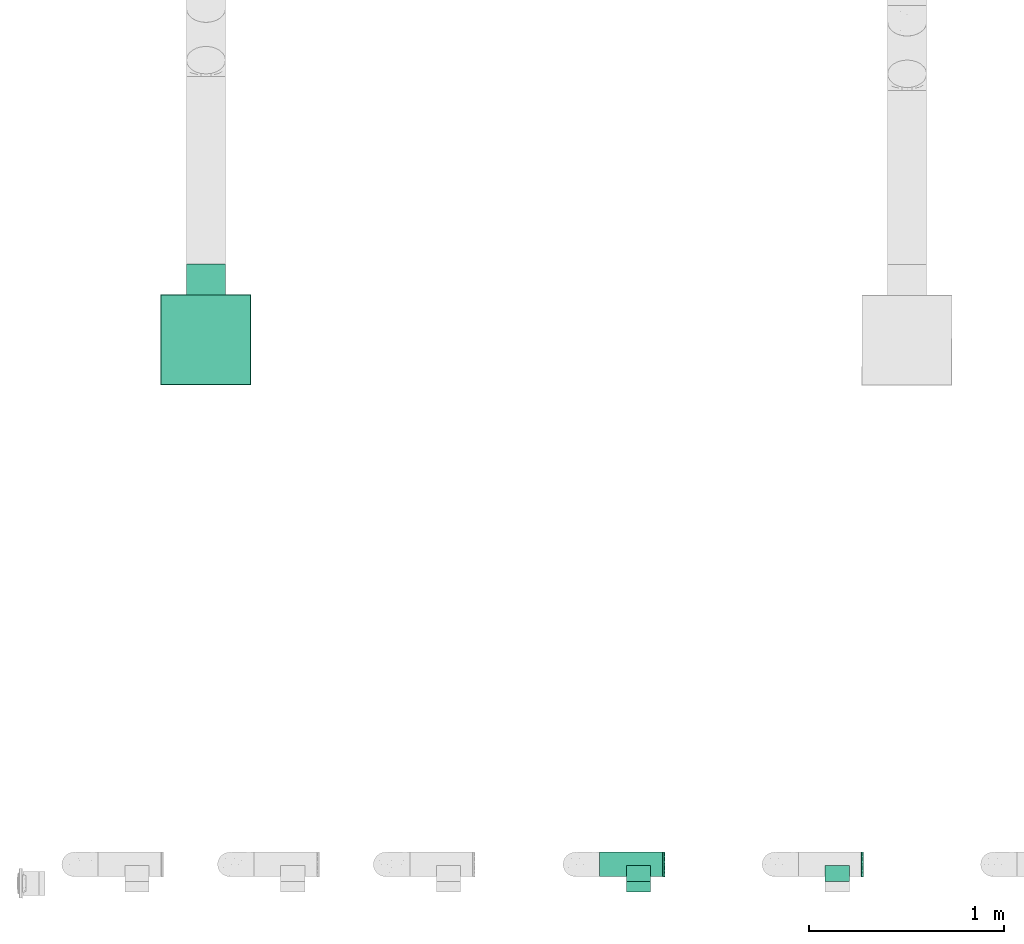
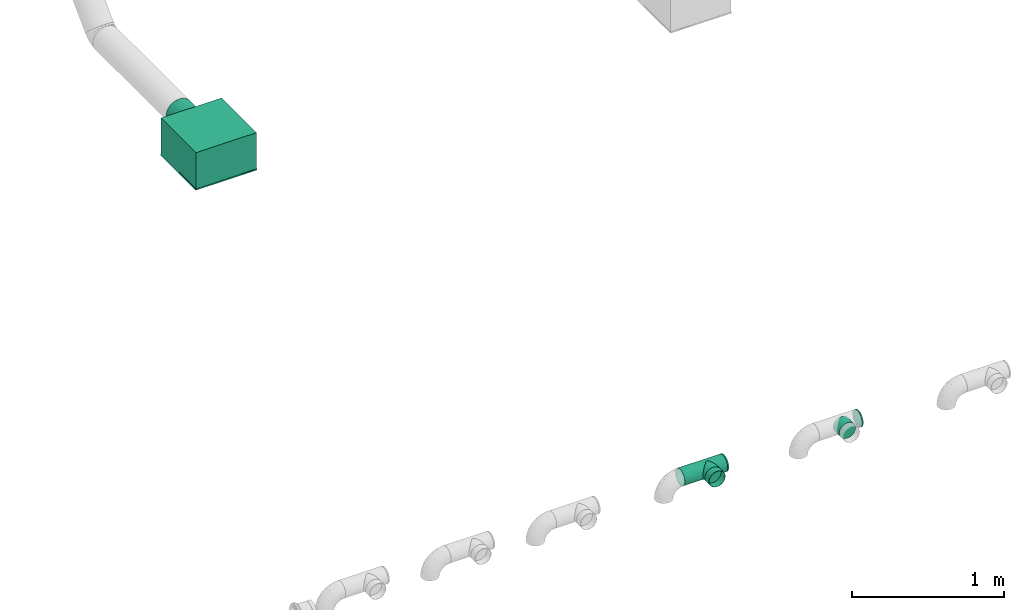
# One storey, part 6 of 63: 4 flow fittings, 2 flow segments, 1 flow terminal.
"""IFC2X3 building model written with IfcOpenShell, lengths in millimetres."""

from ifc_helpers import new_model, entity, si_unit, converted_unit, derived_unit, direction, frame, origin_with_axes, origin_2d_with_axis, place, context, subcontext, project, spatial, hollow_circle, extrude, open_shell, surface_model, source, transform, mapped, type_object, element, save


model = new_model("IFC2X3")

# Units and contexts
model_context = context("Model", 3, precision=0.01, world=frame((0.0, 4.29681676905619e-09, 0.0)), true_north=direction((4.01073788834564e-13, 1.0)))
plan_context = context("Plan", 3, precision=0.01, world=frame((0.0, 4.29681676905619e-09, 0.0)), true_north=direction((4.01073788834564e-13, 1.0)))
body_context = subcontext(model_context, "Body", "Model", "MODEL_VIEW")
ifc_project = project(units=[converted_unit("PLANEANGLEUNIT", "DEGREE", entity("IfcPositiveLengthMeasure", 0.0174532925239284), si_unit("PLANEANGLEUNIT", "RADIAN"), dimensions=[0, 0, 0, 0, 0, 0, 0]), si_unit("AREAUNIT", "SQUARE_METRE"), si_unit("LENGTHUNIT", "METRE", prefix="MILLI"), si_unit("MASSUNIT", "GRAM", prefix="KILO"), si_unit("POWERUNIT", "WATT"), si_unit("PRESSUREUNIT", "PASCAL"), si_unit("FORCEUNIT", "NEWTON", prefix="KILO"), si_unit("ELECTRICVOLTAGEUNIT", "VOLT"), si_unit("ELECTRICCURRENTUNIT", "AMPERE"), si_unit("THERMODYNAMICTEMPERATUREUNIT", "DEGREE_CELSIUS"), si_unit("TIMEUNIT", "SECOND"), si_unit("VOLUMEUNIT", "CUBIC_METRE"), derived_unit("LINEARVELOCITYUNIT", [(si_unit("LENGTHUNIT", "METRE"), 1), (si_unit("TIMEUNIT", "SECOND"), -1)]), derived_unit("VOLUMETRICFLOWRATEUNIT", [(si_unit("VOLUMEUNIT", "CUBIC_METRE"), 1), (si_unit("TIMEUNIT", "SECOND"), -1)]), derived_unit("THERMALTRANSMITTANCEUNIT", [(si_unit("POWERUNIT", "WATT"), 1), (si_unit("THERMODYNAMICTEMPERATUREUNIT", "KELVIN"), -1), (si_unit("AREAUNIT", "SQUARE_METRE"), -1)]), derived_unit("SOUNDPRESSUREUNIT", [(si_unit("PRESSUREUNIT", "PASCAL"), 1)])], contexts=[model_context, plan_context])

# Site, building, storey
site_placement = place(None, frame((0.0, -4.29681676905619e-09, 0.0), z_axis=(0.0, 0.0, 1.0), x_axis=(1.0, 0.0, 0.0)))
site = spatial("IfcSite", under=ifc_project, at=site_placement, CompositionType="ELEMENT")
building_placement = place(site_placement, frame((0.0, 4.29681676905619e-09, 0.0), z_axis=(0.0, 0.0, 1.0), x_axis=(1.0, 0.0, 0.0)))
building = spatial("IfcBuilding", under=site, at=building_placement, Name="mc-building", CompositionType="ELEMENT")
storey_placement = place(building_placement, frame((0.0, 0.0, 210900.0), z_axis=(0.0, 0.0, 1.0), x_axis=(1.0, 0.0, 0.0)))
storey = spatial("IfcBuildingStorey", under=building, at=storey_placement, Name="Nivå F", CompositionType="ELEMENT", Elevation=210900.0)

# Flow fittings
duct_fitting_type_1 = type_object("IfcDuctFittingType", Name="magicirc_tapoutlet_001", PredefinedType="CONNECTOR")
shared_shape_1 = source(origin_with_axes(), body_context, "Body", "SurfaceModel", [
    surface_model("IfcShellBasedSurfaceModel", [(25.0, 0.0, -62.5), (25.0, -31.25, -54.12659), (25.0, -16.17619, -60.37037), (25.0, 44.19417, -44.19417), (25.0, 62.5, 0.0), (25.0, 31.25, -54.12659), (25.0, 54.12659, -31.25), (25.0, -62.5, 0.0), (25.0, -60.37037, -16.17619), (25.0, -60.37037, 16.17619), (25.0, 16.17619, -60.37037), (25.0, -44.19417, -44.19417), (25.0, -54.12659, -31.25), (25.0, 60.37037, -16.17619), (25.0, 60.37037, 16.17619), (25.0, 54.12659, 31.25), (25.0, 44.19417, 44.19417), (25.0, 31.25, 54.12659), (25.0, 0.0, 62.5), (25.0, 16.17619, 60.37037), (25.0, -44.19417, 44.19417), (25.0, -54.12659, 31.25), (25.0, -16.17619, 60.37037), (25.0, -31.25, 54.12659), (0.0, 0.0, 62.5), (0.0, 16.17619, 60.37037), (0.0, 31.25, 54.12659), (0.0, 44.19417, 44.19417), (0.0, 54.12659, 31.25), (0.0, 60.37037, 16.17619), (0.0, 62.5, 0.0), (0.0, 60.37037, -16.17619), (0.0, 54.12659, -31.25), (0.0, 44.19417, -44.19417), (0.0, 31.25, -54.12659), (0.0, 16.17619, -60.37037), (0.0, 0.0, -62.5), (0.0, -16.17619, -60.37037), (0.0, -31.25, -54.12659), (0.0, -44.19417, -44.19417), (0.0, -54.12659, -31.25), (0.0, -60.37037, -16.17619), (0.0, -62.5, 0.0), (0.0, -60.37037, 16.17619), (0.0, -54.12659, 31.25), (0.0, -44.19417, 44.19417), (0.0, -31.25, 54.12659), (0.0, -16.17619, 60.37037), (-56.404, -44.19417, -44.19417), (-56.404, -54.12659, -31.25), (-56.404, -62.5, 0.0), (-56.404, -31.25, -54.12659), (-56.404, 0.0, -62.5), (-56.404, 62.5, 0.0), (-56.404, 60.37037, -16.17619), (-56.404, 60.37037, 16.17619), (-56.404, -16.17619, -60.37037), (-56.404, 16.17619, -60.37037), (-56.404, 31.25, -54.12659), (-56.404, 44.19417, -44.19417), (-56.404, 54.12659, -31.25), (-56.404, -60.37037, 16.17619), (-56.404, -60.37037, -16.17619), (-56.404, 54.12659, 31.25), (-56.404, 44.19417, 44.19417), (-56.404, 16.17619, 60.37037), (-56.404, 31.25, 54.12659), (-56.404, -16.17619, 60.37037), (-56.404, -54.12659, 31.25), (-56.404, -44.19417, 44.19417), (-56.404, -31.25, 54.12659), (-56.404, 0.0, 62.5)], [open_shell([[[0, 1, 2]], [[3, 4, 5]], [[3, 6, 4]], [[7, 8, 9]], [[10, 4, 0]], [[5, 4, 10]], [[11, 0, 9]], [[0, 11, 1]], [[1, 2, 0]], [[12, 9, 8]], [[9, 12, 11]], [[8, 9, 7]], [[4, 6, 13]], [[14, 15, 0]], [[0, 15, 16]], [[0, 17, 18]], [[16, 17, 0]], [[17, 19, 18]], [[0, 20, 21]], [[21, 9, 0]], [[22, 23, 0]], [[23, 20, 0]], [[22, 0, 18]], [[4, 14, 0]], [[24, 18, 19]], [[25, 19, 17]], [[24, 19, 25]], [[26, 16, 27]], [[26, 25, 17]], [[16, 26, 17]], [[28, 15, 14]], [[29, 14, 4]], [[27, 15, 28]], [[29, 28, 14]], [[30, 29, 4]], [[15, 27, 16]], [[30, 4, 13]], [[31, 13, 6]], [[30, 13, 31]], [[32, 3, 33]], [[32, 31, 6]], [[3, 32, 6]], [[34, 5, 10]], [[35, 10, 0]], [[33, 5, 34]], [[35, 34, 10]], [[36, 35, 0]], [[5, 33, 3]], [[36, 0, 2]], [[37, 2, 1]], [[36, 2, 37]], [[38, 11, 39]], [[38, 37, 1]], [[11, 38, 1]], [[40, 12, 8]], [[41, 8, 7]], [[39, 12, 40]], [[41, 40, 8]], [[42, 41, 7]], [[12, 39, 11]], [[42, 7, 9]], [[43, 9, 21]], [[42, 9, 43]], [[44, 20, 45]], [[44, 43, 21]], [[20, 44, 21]], [[46, 23, 22]], [[47, 22, 18]], [[45, 23, 46]], [[47, 46, 22]], [[24, 47, 18]], [[23, 45, 20]], [[15, 0, 14]], [[15, 16, 0]], [[0, 16, 17]], [[18, 17, 19]], [[9, 0, 21]], [[0, 23, 20]], [[18, 22, 0]], [[14, 0, 4]], [[48, 49, 50]], [[48, 50, 51]], [[36, 37, 52]], [[52, 35, 36]], [[53, 54, 55]], [[52, 56, 57]], [[57, 55, 58]], [[59, 55, 60]], [[58, 55, 59]], [[57, 50, 61]], [[56, 51, 50]], [[62, 50, 49]], [[50, 57, 56]], [[54, 60, 55]], [[55, 57, 63]], [[64, 63, 57]], [[57, 65, 66]], [[57, 66, 64]], [[57, 67, 65]], [[68, 69, 57]], [[57, 61, 68]], [[69, 70, 57]], [[57, 70, 67]], [[67, 71, 65]], [[71, 24, 25]], [[66, 25, 26]], [[71, 25, 65]], [[65, 25, 66]], [[26, 64, 66]], [[26, 27, 64]], [[55, 28, 29]], [[53, 29, 30]], [[27, 63, 64]], [[27, 28, 63]], [[63, 28, 55]], [[29, 53, 55]], [[54, 30, 31]], [[60, 31, 32]], [[53, 30, 54]], [[54, 31, 60]], [[32, 59, 60]], [[32, 33, 59]], [[57, 34, 35]], [[33, 58, 59]], [[33, 34, 58]], [[58, 34, 57]], [[35, 52, 57]], [[37, 38, 51]], [[52, 37, 56]], [[48, 51, 38]], [[37, 51, 56]], [[38, 39, 48]], [[62, 40, 41]], [[50, 41, 42]], [[39, 49, 48]], [[39, 40, 49]], [[49, 40, 62]], [[41, 50, 62]], [[43, 44, 68]], [[42, 43, 61]], [[61, 50, 42]], [[68, 61, 43]], [[44, 69, 68]], [[44, 45, 69]], [[67, 46, 47]], [[71, 47, 24]], [[45, 70, 69]], [[45, 46, 70]], [[70, 46, 67]], [[47, 71, 67]], [[57, 63, 55]], [[57, 64, 63]], [[66, 57, 65]], [[66, 64, 57]], [[65, 57, 67]], [[68, 57, 61]]])]),
])
for number, where, z_axis, x_axis, name in (
    (1, (526541.94464, 440830.46265, 2163.0), (0.0, 0.0, -1.0), (0.0, -1.0, 0.0), "magicirc_tapoutlet_001"),
    (2, (525521.94464, 440830.46265, 2163.0), (0.0, 0.0, -1.0), (0.0, -1.0, 0.0), "magicirc_tapoutlet_001"),
):
    element("IfcFlowFitting", number, at=place(storey_placement, frame(where, z_axis=z_axis, x_axis=x_axis)), inside=storey, type_object=duct_fitting_type_1, Name=name, context=body_context, shape_type="MappedRepresentation", body=[
        mapped(shared_shape_1, transform((0.0, 0.0, 0.0), scale=1.0)),
    ])
duct_fitting_type_2 = type_object("IfcDuctFittingType", Name="magicirc_plug_001", PredefinedType="OBSTRUCTION")
shared_shape_2 = source(origin_with_axes(), body_context, "Body", "SurfaceModel", [
    surface_model("IfcShellBasedSurfaceModel", [(0.0, 0.0, -62.5), (0.0, -16.17619, -60.37037), (0.0, 16.17619, -60.37037), (0.0, 31.25, -54.12659), (0.0, 54.12659, -31.25), (0.0, 44.19417, -44.19417), (0.0, 60.37037, -16.17619), (0.0, -31.25, -54.12659), (0.0, -44.19417, -44.19417), (0.0, -62.5, 0.0), (0.0, -54.12659, -31.25), (0.0, -60.37037, -16.17619), (0.0, 62.5, 0.0), (0.0, 60.37037, 16.17619), (0.0, 44.19417, 44.19417), (0.0, 54.12659, 31.25), (0.0, 31.25, 54.12659), (0.0, -54.12659, 31.25), (0.0, -16.17619, 60.37037), (0.0, 16.17619, 60.37037), (0.0, -44.19417, 44.19417), (0.0, -31.25, 54.12659), (0.0, -60.37037, 16.17619), (0.0, 0.0, 62.5), (10.0, 16.17619, -60.37037), (10.0, -16.17619, -60.37037), (10.0, 0.0, -62.5), (10.0, 44.19417, -44.19417), (10.0, 31.25, -54.12659), (10.0, 54.12659, -31.25), (10.0, 60.37037, -16.17619), (10.0, -44.19417, -44.19417), (10.0, -31.25, -54.12659), (10.0, -62.5, 0.0), (10.0, -60.37037, -16.17619), (10.0, -54.12659, -31.25), (10.0, -54.12659, 31.25), (10.0, 44.19417, 44.19417), (10.0, 62.5, 0.0), (10.0, 60.37037, 16.17619), (10.0, 54.12659, 31.25), (10.0, 31.25, 54.12659), (10.0, 16.17619, 60.37037), (10.0, -16.17619, 60.37037), (10.0, -31.25, 54.12659), (10.0, -44.19417, 44.19417), (10.0, -60.37037, 16.17619), (10.0, 0.0, 62.5)], [open_shell([[[0, 1, 2]], [[3, 2, 4]], [[4, 2, 1]], [[5, 3, 4]], [[6, 4, 1]], [[7, 8, 1]], [[9, 1, 8]], [[10, 11, 8]], [[9, 8, 11]], [[9, 6, 1]], [[9, 12, 6]], [[13, 12, 14]], [[15, 13, 14]], [[16, 14, 17]], [[9, 17, 14]], [[16, 18, 19]], [[20, 21, 17]], [[17, 9, 22]], [[21, 18, 17]], [[17, 18, 16]], [[18, 23, 19]], [[14, 12, 9]], [[24, 25, 26]], [[27, 24, 28]], [[25, 24, 29]], [[29, 24, 27]], [[25, 29, 30]], [[25, 31, 32]], [[31, 25, 33]], [[31, 34, 35]], [[34, 31, 33]], [[25, 30, 33]], [[30, 36, 33]], [[37, 38, 39]], [[37, 39, 40]], [[37, 41, 42]], [[38, 37, 43]], [[43, 37, 42]], [[36, 44, 45]], [[46, 33, 36]], [[38, 44, 36]], [[43, 44, 38]], [[42, 47, 43]], [[36, 30, 38]], [[46, 9, 33]], [[36, 22, 46]], [[20, 45, 44]], [[36, 45, 17]], [[21, 44, 43]], [[36, 17, 22]], [[22, 9, 46]], [[18, 47, 23]], [[18, 21, 43]], [[20, 44, 21]], [[20, 17, 45]], [[47, 18, 43]], [[41, 19, 42]], [[37, 16, 41]], [[15, 40, 39]], [[37, 40, 14]], [[13, 39, 38]], [[41, 16, 19]], [[19, 23, 42]], [[13, 15, 39]], [[14, 40, 15]], [[14, 16, 37]], [[12, 13, 38]], [[42, 23, 47]], [[30, 12, 38]], [[29, 6, 30]], [[5, 27, 28]], [[29, 27, 4]], [[3, 28, 24]], [[29, 4, 6]], [[6, 12, 30]], [[2, 26, 0]], [[2, 3, 24]], [[5, 28, 3]], [[5, 4, 27]], [[26, 2, 24]], [[32, 1, 25]], [[31, 7, 32]], [[10, 35, 34]], [[31, 35, 8]], [[11, 34, 33]], [[32, 7, 1]], [[1, 0, 25]], [[11, 10, 34]], [[8, 35, 10]], [[8, 7, 31]], [[9, 11, 33]], [[25, 0, 26]]])]),
])
for number, where, z_axis, x_axis, name in (
    (3, (526666.94497, 440892.96265, 2163.0), (0.0, 0.0, 1.0), (1.0, 0.0, 0.0), "magicirc_plug_001"),
    (4, (525646.94497, 440892.96265, 2163.0), (0.0, 0.0, 1.0), (1.0, 0.0, 0.0), "magicirc_plug_001"),
):
    element("IfcFlowFitting", number, at=place(storey_placement, frame(where, z_axis=z_axis, x_axis=x_axis)), inside=storey, type_object=duct_fitting_type_2, Name=name, context=body_context, shape_type="MappedRepresentation", body=[
        mapped(shared_shape_2, transform((0.0, 0.0, 0.0), scale=1.0)),
    ])

# Flow segments
duct_segment_type = type_object("IfcDuctSegmentType", Name="KK001T - Spiro kanaler, Forsinket stål", PredefinedType="RIGIDSEGMENT")
shared_shape_3 = source(origin_with_axes(), body_context, "Body", "SweptSolid", [
    extrude(hollow_circle(Radius=62.5, WallThickness=2.0, at=origin_2d_with_axis()), frame((0.0, 0.0, 0.0), z_axis=(1.0, 0.0, 0.0), x_axis=(0.0, 1.0, 0.0)), (0.0, 0.0, 1.0), 53.2),
])
flow_segment_1_placement = place(storey_placement, frame((525521.94464, 440805.46265, 2163.0), z_axis=(0.0, 0.0, 1.0), x_axis=(0.0, -1.0, 0.0)))
element("IfcFlowSegment", 5, at=flow_segment_1_placement, inside=storey, type_object=duct_segment_type, Name="KK001T - Spiro kanaler, Forsinket stål", context=body_context, shape_type="MappedRepresentation", body=[
    mapped(shared_shape_3, transform((0.0, 0.0, 0.0), scale=1.0)),
])
shared_shape_4 = source(origin_with_axes(), body_context, "Body", "SweptSolid", [
    extrude(hollow_circle(Radius=62.5, WallThickness=2.0, at=origin_2d_with_axis()), frame((0.0, 0.0, 0.0), z_axis=(1.0, 0.0, 0.0), x_axis=(0.0, 1.0, 0.0)), (0.0, 0.0, 1.0), 324.8),
])
flow_segment_2_placement = place(storey_placement, frame((525322.16875, 440892.96265, 2163.0), z_axis=(0.0, 0.0, 1.0), x_axis=(1.0, 0.0, 0.0)))
element("IfcFlowSegment", 6, at=flow_segment_2_placement, inside=storey, type_object=duct_segment_type, Name="KK001T - Spiro kanaler, Forsinket stål", context=body_context, shape_type="MappedRepresentation", body=[
    mapped(shared_shape_4, transform((0.0, 0.0, 0.0), scale=1.0)),
])

# Flow terminal
air_terminal_type = type_object("IfcAirTerminalType", Name="NS19-H-S-2-200 - 4-way", PredefinedType="NOTDEFINED")
shared_shape_5 = source(origin_with_axes(), body_context, "Body", "SurfaceModel", [
    surface_model("IfcShellBasedSurfaceModel", [(-231.99999, 231.99999, 0.0), (-231.99999, -231.99999, 0.0), (231.99999, -231.99999, 0.0), (231.99999, 231.99999, 0.0), (231.99999, 231.99999, -10.0), (231.99999, -231.99999, -10.0), (-231.99999, -231.99999, -10.0), (-231.99999, 231.99999, -10.0), (-230.0, 230.0, 289.99999), (-230.0, -230.0, 289.99999), (230.0, -230.0, 289.99999), (230.0, 230.0, 289.99999), (230.0, 230.0, 0.0), (230.0, -230.0, 0.0), (-230.0, -230.0, 0.0), (-230.0, 230.0, 0.0), (-230.0, 50.0, 78.39746), (-230.0, 70.71068, 94.28932), (-230.0, 49.9, 78.57067), (-230.0, 25.83014, 68.6006), (-230.0, 0.0, 65.2), (-230.0, 25.8819, 68.40742), (-230.0, 0.0, 65.0), (-230.0, 70.56926, 94.43075), (-230.0, 96.59259, 139.1181), (-230.0, 99.8, 164.99999), (-230.0, 96.39939, 139.16986), (-230.0, 100.0, 164.99999), (-230.0, 86.60254, 115.0), (-230.0, 86.42934, 115.1), (-230.0, -25.83014, 68.6006), (-230.0, -25.8819, 68.40742), (-230.0, -49.9, 78.57067), (-230.0, -70.71068, 94.28932), (-230.0, -50.0, 78.39746), (-230.0, -70.56926, 94.43075), (-230.0, -86.42934, 115.1), (-230.0, -86.60254, 115.0), (-230.0, -96.39939, 139.16986), (-230.0, -96.59259, 139.1181), (-230.0, -99.8, 164.99999), (-230.0, -100.0, 164.99999), (-230.0, 96.59259, 190.8819), (-230.0, 96.39939, 190.83014), (-230.0, 86.42934, 214.9), (-230.0, 86.60254, 214.99999), (-230.0, 70.56926, 235.56925), (-230.0, 70.71068, 235.71069), (-230.0, 50.0, 251.60254), (-230.0, 49.9, 251.42933), (-230.0, 25.83014, 261.3994), (-230.0, 25.8819, 261.59259), (-230.0, 0.0, 264.80001), (-230.0, 0.0, 264.99999), (-230.0, -86.60254, 214.99999), (-230.0, -86.42934, 214.9), (-230.0, -70.71068, 235.71069), (-230.0, -70.56926, 235.56925), (-230.0, -96.59259, 190.8819), (-230.0, -96.39939, 190.83014), (-230.0, -25.83014, 261.3994), (-230.0, -25.8819, 261.59259), (-230.0, -49.9, 251.42933), (-230.0, -50.0, 251.60254), (-390.0, 50.0, 251.60254), (-390.0, 70.71068, 235.71069), (-390.0, 49.9, 251.42933), (-390.0, 25.83014, 261.3994), (-390.0, 0.0, 264.80001), (-390.0, 25.8819, 261.59259), (-390.0, 0.0, 264.99999), (-390.0, 70.56926, 235.56925), (-390.0, 96.59259, 190.8819), (-390.0, 99.8, 164.99999), (-390.0, 96.39939, 190.83014), (-390.0, 100.0, 164.99999), (-390.0, 86.60254, 214.99999), (-390.0, 86.42934, 214.9), (-390.0, -25.83014, 261.3994), (-390.0, -25.8819, 261.59259), (-390.0, -49.9, 251.42933), (-390.0, -70.71068, 235.71069), (-390.0, -50.0, 251.60254), (-390.0, -70.56926, 235.56925), (-390.0, -86.42934, 214.9), (-390.0, -86.60254, 214.99999), (-390.0, -96.39939, 190.83014), (-390.0, -96.59259, 190.8819), (-390.0, -99.8, 164.99999), (-390.0, -100.0, 164.99999), (-390.0, 96.59259, 139.1181), (-390.0, 96.39939, 139.16986), (-390.0, 86.42934, 115.1), (-390.0, 86.60254, 115.0), (-390.0, 70.56926, 94.43075), (-390.0, 70.71068, 94.28932), (-390.0, 50.0, 78.39746), (-390.0, 49.9, 78.57067), (-390.0, 25.83014, 68.6006), (-390.0, 25.8819, 68.40742), (-390.0, 0.0, 65.2), (-390.0, 0.0, 65.0), (-390.0, -86.60254, 115.0), (-390.0, -86.42934, 115.1), (-390.0, -70.71068, 94.28932), (-390.0, -70.56926, 94.43075), (-390.0, -96.59259, 139.1181), (-390.0, -96.39939, 139.16986), (-390.0, -25.83014, 68.6006), (-390.0, -25.8819, 68.40742), (-390.0, -49.9, 78.57067), (-390.0, -50.0, 78.39746)], [open_shell([[[0, 1, 2]], [[2, 3, 0]], [[4, 5, 6]], [[6, 7, 4]], [[2, 1, 6]], [[6, 5, 2]], [[3, 2, 5]], [[5, 4, 3]], [[0, 3, 4]], [[4, 7, 0]], [[1, 0, 7]], [[7, 6, 1]], [[8, 9, 10]], [[10, 11, 8]], [[12, 13, 14]], [[14, 15, 12]], [[10, 9, 13]], [[14, 13, 9]], [[11, 10, 12]], [[13, 12, 10]], [[8, 11, 15]], [[12, 15, 11]], [[9, 8, 14]], [[15, 14, 8]], [[16, 17, 18]], [[16, 18, 19]], [[20, 21, 19]], [[21, 20, 22]], [[19, 21, 16]], [[18, 17, 23]], [[24, 25, 26]], [[25, 24, 27]], [[24, 26, 28]], [[23, 28, 29]], [[28, 23, 17]], [[29, 28, 26]], [[22, 30, 31]], [[31, 30, 32]], [[33, 34, 35]], [[32, 34, 31]], [[32, 35, 34]], [[22, 20, 30]], [[36, 37, 33]], [[37, 36, 38]], [[36, 33, 35]], [[39, 38, 40]], [[38, 39, 37]], [[39, 40, 41]], [[27, 42, 43]], [[43, 42, 44]], [[44, 45, 46]], [[45, 44, 42]], [[46, 45, 47]], [[47, 48, 49]], [[49, 48, 50]], [[50, 51, 52]], [[51, 50, 48]], [[52, 51, 53]], [[49, 46, 47]], [[54, 55, 56]], [[56, 55, 57]], [[55, 54, 58]], [[41, 59, 58]], [[58, 59, 55]], [[41, 40, 59]], [[60, 53, 61]], [[60, 61, 62]], [[57, 63, 56]], [[57, 62, 63]], [[63, 62, 61]], [[52, 53, 60]], [[43, 25, 27]], [[64, 65, 66]], [[64, 66, 67]], [[68, 69, 67]], [[69, 68, 70]], [[67, 69, 64]], [[66, 65, 71]], [[72, 73, 74]], [[73, 72, 75]], [[72, 74, 76]], [[71, 76, 77]], [[76, 71, 65]], [[77, 76, 74]], [[70, 78, 79]], [[79, 78, 80]], [[81, 82, 83]], [[80, 82, 79]], [[80, 83, 82]], [[70, 68, 78]], [[84, 85, 81]], [[85, 84, 86]], [[84, 81, 83]], [[87, 86, 88]], [[86, 87, 85]], [[87, 88, 89]], [[75, 90, 91]], [[91, 90, 92]], [[92, 93, 94]], [[93, 92, 90]], [[94, 93, 95]], [[95, 96, 97]], [[97, 96, 98]], [[98, 99, 100]], [[99, 98, 96]], [[100, 99, 101]], [[97, 94, 95]], [[102, 103, 104]], [[104, 103, 105]], [[103, 102, 106]], [[89, 107, 106]], [[106, 107, 103]], [[89, 88, 107]], [[108, 101, 109]], [[108, 109, 110]], [[105, 111, 104]], [[105, 110, 111]], [[111, 110, 109]], [[100, 101, 108]], [[91, 73, 75]], [[39, 106, 102]], [[104, 37, 102]], [[34, 111, 109]], [[104, 111, 33]], [[31, 109, 101]], [[106, 41, 89]], [[106, 39, 41]], [[102, 37, 39]], [[104, 33, 37]], [[34, 33, 111]], [[109, 31, 34]], [[101, 22, 31]], [[21, 99, 96]], [[95, 16, 96]], [[28, 93, 90]], [[95, 93, 17]], [[24, 90, 75]], [[99, 21, 22]], [[96, 16, 21]], [[95, 17, 16]], [[93, 28, 17]], [[24, 28, 90]], [[75, 27, 24]], [[99, 22, 101]], [[75, 72, 42]], [[48, 64, 69]], [[64, 47, 65]], [[51, 69, 70]], [[72, 45, 42]], [[42, 27, 75]], [[76, 47, 45]], [[76, 65, 47]], [[47, 64, 48]], [[69, 51, 48]], [[76, 45, 72]], [[70, 53, 51]], [[61, 79, 82]], [[81, 63, 82]], [[54, 85, 87]], [[81, 85, 56]], [[58, 87, 89]], [[79, 61, 53]], [[82, 63, 61]], [[81, 56, 63]], [[85, 54, 56]], [[58, 54, 87]], [[89, 41, 58]], [[79, 53, 70]], [[103, 107, 38]], [[103, 36, 105]], [[108, 110, 32]], [[35, 110, 105]], [[100, 108, 30]], [[88, 40, 107]], [[40, 38, 107]], [[38, 36, 103]], [[36, 35, 105]], [[110, 35, 32]], [[32, 30, 108]], [[30, 20, 100]], [[97, 98, 19]], [[97, 18, 94]], [[91, 92, 29]], [[23, 92, 94]], [[73, 91, 26]], [[20, 19, 98]], [[19, 18, 97]], [[18, 23, 94]], [[23, 29, 92]], [[91, 29, 26]], [[26, 25, 73]], [[100, 20, 98]], [[43, 74, 73]], [[67, 66, 49]], [[71, 46, 66]], [[68, 67, 50]], [[43, 44, 74]], [[73, 25, 43]], [[44, 46, 77]], [[46, 71, 77]], [[49, 66, 46]], [[49, 50, 67]], [[74, 44, 77]], [[50, 52, 68]], [[80, 78, 60]], [[80, 62, 83]], [[86, 84, 55]], [[57, 84, 83]], [[88, 86, 59]], [[52, 60, 78]], [[60, 62, 80]], [[62, 57, 83]], [[57, 55, 84]], [[86, 55, 59]], [[59, 40, 88]], [[68, 52, 78]]])]),
])
flow_terminal_placement = place(storey_placement, frame((523300.37342, 443585.92561, 3770.0), z_axis=(0.0, 0.0, 1.0), x_axis=(-0.000647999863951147, -0.999999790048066, 0.0)))
element("IfcFlowTerminal", 7, at=flow_terminal_placement, inside=storey, type_object=air_terminal_type, Name="NS19-H-S-2-200 - 4-way", context=body_context, shape_type="MappedRepresentation", body=[
    mapped(shared_shape_5, transform((0.0, 0.0, 0.0), scale=1.0)),
])

save(model, "model.ifc")
